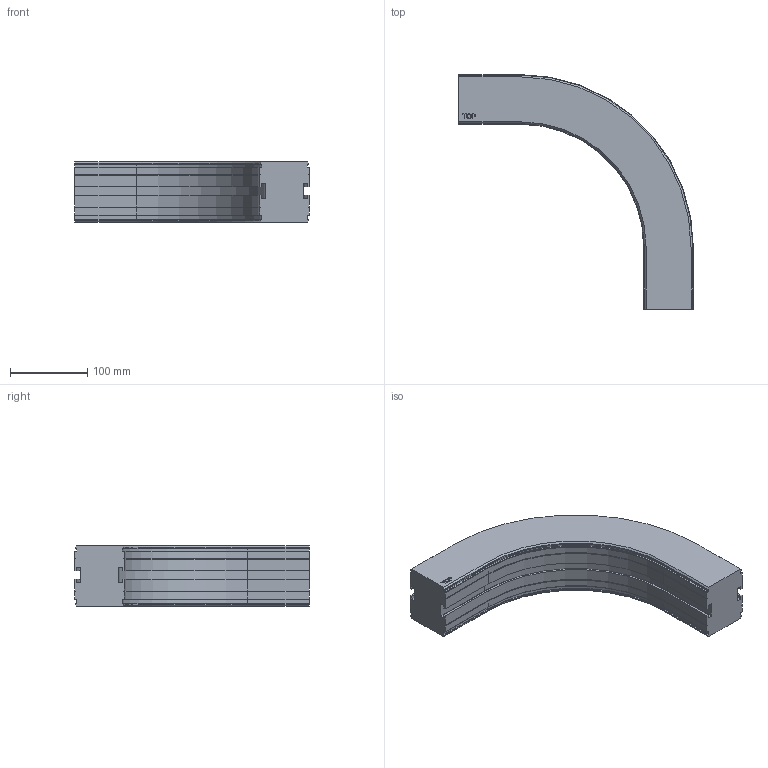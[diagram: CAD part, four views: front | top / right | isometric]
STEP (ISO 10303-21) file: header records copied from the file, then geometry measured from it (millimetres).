
FILE_DESCRIPTION((''),'2;1');
FILE_NAME('C:\Vault Klient\Projekt\Koncept konstruktion\Serie 620 Balk\620-5160.stp','2009-11-26T14:46:39',('Mathias'),(''),'Autodesk Inventor 2010','Autodesk Inventor 2010','');
FILE_SCHEMA(('AUTOMOTIVE_DESIGN { 1 0 10303 214 1 1 1 1 }'));
Length unit declared in the file: millimetre
Products named in the file (1): 620-5160
Bounding box: 303 x 303 x 78 mm (x, y, z)
Volume: 2139300.1 mm3; surface area: 175153 mm2
Topology: 1 solids, 1 shells, 169 faces, 446 edges, 284 vertices
Faces by surface type: plane 109, cylinder 30, bspline 14, cone 12, torus 4
Entity records: 5295 total; most frequent: CARTESIAN_POINT 1094, ORIENTED_EDGE 892, DIRECTION 802, EDGE_CURVE 446, VECTOR 346, LINE 346, VERTEX_POINT 284, AXIS2_PLACEMENT_3D 228
